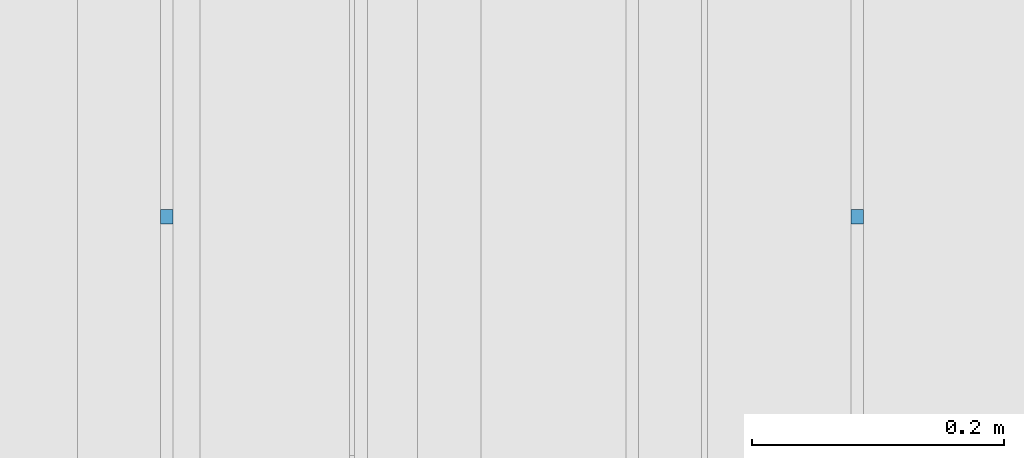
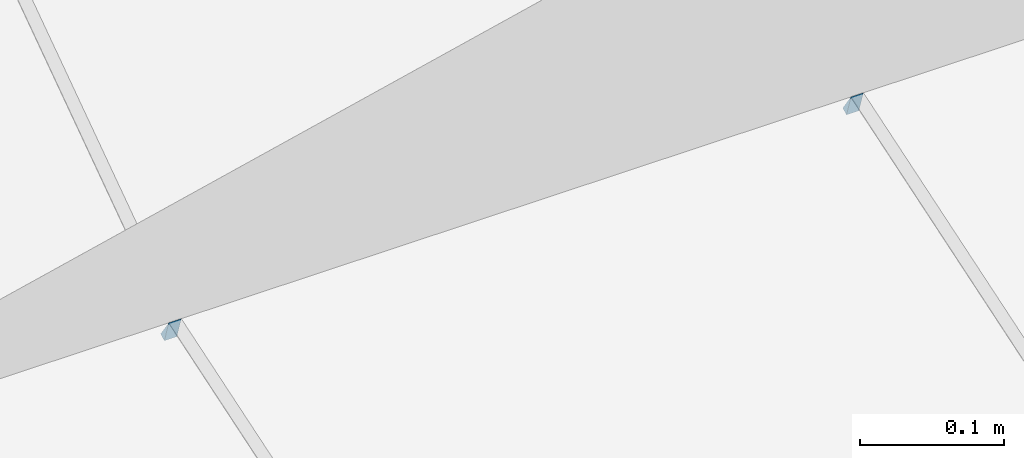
# One storey, part 381 of 583: 2 slabs.
"""IFC2X3 building model written with IfcOpenShell, lengths in metres."""

from ifc_helpers import new_model, entity, si_unit, converted_unit, derived_unit, money_unit, direction, frame, origin_with_axes, place, context, subcontext, project, spatial, faceted_brep, material, type_object, element, save


model = new_model("IFC2X3")

# Units and contexts
model_context = context("Model", 3, precision=1e-05, world=origin_with_axes(), true_north=direction((0.0, 1.0)))
body_context = subcontext(model_context, "Body", "Model", "MODEL_VIEW", scale=1.0)
ifc_project = project(units=[si_unit("LENGTHUNIT", "METRE"), si_unit("AREAUNIT", "SQUARE_METRE"), si_unit("VOLUMEUNIT", "CUBIC_METRE"), si_unit("ABSORBEDDOSEUNIT", "GRAY"), si_unit("AMOUNTOFSUBSTANCEUNIT", "MOLE"), si_unit("DOSEEQUIVALENTUNIT", "SIEVERT"), si_unit("ELECTRICCAPACITANCEUNIT", "FARAD"), si_unit("ELECTRICCHARGEUNIT", "COULOMB"), si_unit("ELECTRICCONDUCTANCEUNIT", "SIEMENS"), si_unit("ELECTRICCURRENTUNIT", "AMPERE"), si_unit("ELECTRICRESISTANCEUNIT", "OHM"), si_unit("ELECTRICVOLTAGEUNIT", "VOLT"), si_unit("ENERGYUNIT", "JOULE"), si_unit("FORCEUNIT", "NEWTON"), si_unit("FREQUENCYUNIT", "HERTZ"), si_unit("ILLUMINANCEUNIT", "LUX"), si_unit("INDUCTANCEUNIT", "HENRY"), si_unit("LUMINOUSFLUXUNIT", "LUMEN"), si_unit("LUMINOUSINTENSITYUNIT", "CANDELA"), si_unit("MAGNETICFLUXDENSITYUNIT", "TESLA"), si_unit("MAGNETICFLUXUNIT", "WEBER"), si_unit("MASSUNIT", "GRAM"), converted_unit("PLANEANGLEUNIT", "degree", entity("IfcReal", 0.0174532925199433), si_unit("PLANEANGLEUNIT", "RADIAN"), dimensions=[0, 0, 0, 0, 0, 0, 0]), si_unit("POWERUNIT", "WATT"), si_unit("PRESSUREUNIT", "PASCAL"), si_unit("RADIOACTIVITYUNIT", "BECQUEREL"), si_unit("SOLIDANGLEUNIT", "STERADIAN"), si_unit("THERMODYNAMICTEMPERATUREUNIT", "KELVIN"), si_unit("TIMEUNIT", "SECOND"), derived_unit("ACCELERATIONUNIT", [(si_unit("LENGTHUNIT", "METRE"), 1), (si_unit("TIMEUNIT", "SECOND"), -2)]), derived_unit("ANGULARVELOCITYUNIT", [(converted_unit("PLANEANGLEUNIT", "degree", entity("IfcReal", 0.0174532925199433), si_unit("PLANEANGLEUNIT", "RADIAN"), dimensions=[0, 0, 0, 0, 0, 0, 0]), 1), (si_unit("TIMEUNIT", "SECOND"), -1)]), derived_unit("CURVATUREUNIT", [(converted_unit("PLANEANGLEUNIT", "degree", entity("IfcReal", 0.0174532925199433), si_unit("PLANEANGLEUNIT", "RADIAN"), dimensions=[0, 0, 0, 0, 0, 0, 0]), 1), (si_unit("LENGTHUNIT", "METRE"), -1)]), derived_unit("DYNAMICVISCOSITYUNIT", [(si_unit("PRESSUREUNIT", "PASCAL"), 1), (si_unit("TIMEUNIT", "SECOND"), 1)]), derived_unit("HEATFLUXDENSITYUNIT", [(si_unit("POWERUNIT", "WATT"), 1), (si_unit("LENGTHUNIT", "METRE"), -2)]), derived_unit("HEATINGVALUEUNIT", [(si_unit("ENERGYUNIT", "JOULE"), 1), (si_unit("MASSUNIT", "GRAM"), -1)]), derived_unit("INTEGERCOUNTRATEUNIT", [(si_unit("TIMEUNIT", "SECOND"), -1)]), derived_unit("IONCONCENTRATIONUNIT", [(si_unit("MASSUNIT", "GRAM"), 1), (si_unit("VOLUMEUNIT", "CUBIC_METRE"), -1)]), derived_unit("ISOTHERMALMOISTURECAPACITYUNIT", [(si_unit("VOLUMEUNIT", "CUBIC_METRE"), 1), (si_unit("MASSUNIT", "GRAM"), -1)]), derived_unit("KINEMATICVISCOSITYUNIT", [(si_unit("AREAUNIT", "SQUARE_METRE"), 1), (si_unit("TIMEUNIT", "SECOND"), -1)]), derived_unit("LINEARFORCEUNIT", [(si_unit("FORCEUNIT", "NEWTON"), 1), (si_unit("LENGTHUNIT", "METRE"), -1)]), derived_unit("LINEARMOMENTUNIT", [(si_unit("FORCEUNIT", "NEWTON"), 1), (si_unit("LENGTHUNIT", "METRE"), -1)]), derived_unit("LINEARSTIFFNESSUNIT", [(si_unit("FORCEUNIT", "NEWTON"), 1), (si_unit("LENGTHUNIT", "METRE"), -1)]), derived_unit("LINEARVELOCITYUNIT", [(si_unit("LENGTHUNIT", "METRE"), 1), (si_unit("TIMEUNIT", "SECOND"), -1)]), derived_unit("LUMINOUSINTENSITYDISTRIBUTIONUNIT", [(si_unit("LUMINOUSINTENSITYUNIT", "CANDELA"), 1), (si_unit("LUMINOUSFLUXUNIT", "LUMEN"), -1)]), derived_unit("MASSDENSITYUNIT", [(si_unit("MASSUNIT", "GRAM"), 1), (si_unit("VOLUMEUNIT", "CUBIC_METRE"), -1)]), derived_unit("MASSFLOWRATEUNIT", [(si_unit("MASSUNIT", "GRAM"), 1), (si_unit("TIMEUNIT", "SECOND"), -1)]), derived_unit("MASSPERLENGTHUNIT", [(si_unit("MASSUNIT", "GRAM"), 1), (si_unit("LENGTHUNIT", "METRE"), -1)]), derived_unit("MODULUSOFELASTICITYUNIT", [(si_unit("FORCEUNIT", "NEWTON"), 1), (si_unit("AREAUNIT", "SQUARE_METRE"), -1)]), derived_unit("MODULUSOFLINEARSUBGRADEREACTIONUNIT", [(si_unit("FORCEUNIT", "NEWTON"), 1), (si_unit("LENGTHUNIT", "METRE"), -2)]), derived_unit("MODULUSOFROTATIONALSUBGRADEREACTIONUNIT", [(si_unit("FORCEUNIT", "NEWTON"), 1), (si_unit("LENGTHUNIT", "METRE"), 1)]), derived_unit("MODULUSOFSUBGRADEREACTIONUNIT", [(si_unit("FORCEUNIT", "NEWTON"), 1), (si_unit("VOLUMEUNIT", "CUBIC_METRE"), -1)]), derived_unit("MOISTUREDIFFUSIVITYUNIT", [(si_unit("VOLUMEUNIT", "CUBIC_METRE"), 1), (si_unit("TIMEUNIT", "SECOND"), -1)]), derived_unit("MOLECULARWEIGHTUNIT", [(si_unit("MASSUNIT", "GRAM"), 1), (si_unit("AMOUNTOFSUBSTANCEUNIT", "MOLE"), -1)]), derived_unit("PLANARFORCEUNIT", [(si_unit("FORCEUNIT", "NEWTON"), 1), (si_unit("LENGTHUNIT", "METRE"), -2)]), derived_unit("ROTATIONALFREQUENCYUNIT", [(si_unit("TIMEUNIT", "SECOND"), -1)]), derived_unit("ROTATIONALMASSUNIT", [(si_unit("MASSUNIT", "GRAM"), 1), (si_unit("LENGTHUNIT", "METRE"), 2)]), derived_unit("ROTATIONALSTIFFNESSUNIT", [(si_unit("FORCEUNIT", "NEWTON"), 1), (si_unit("LENGTHUNIT", "METRE"), 1), (converted_unit("PLANEANGLEUNIT", "degree", entity("IfcReal", 0.0174532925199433), si_unit("PLANEANGLEUNIT", "RADIAN"), dimensions=[0, 0, 0, 0, 0, 0, 0]), -1)]), derived_unit("SECTIONAREAINTEGRALUNIT", [(si_unit("LENGTHUNIT", "METRE"), 5)]), derived_unit("SECTIONMODULUSUNIT", [(si_unit("LENGTHUNIT", "METRE"), 3)]), derived_unit("SHEARMODULUSUNIT", [(si_unit("FORCEUNIT", "NEWTON"), 1), (si_unit("AREAUNIT", "SQUARE_METRE"), -1)]), derived_unit("SOUNDPOWERUNIT", [(si_unit("ENERGYUNIT", "JOULE"), 1), (si_unit("TIMEUNIT", "SECOND"), -1)]), derived_unit("SPECIFICHEATCAPACITYUNIT", [(si_unit("FORCEUNIT", "NEWTON"), 1), (si_unit("MASSUNIT", "GRAM"), -1), (si_unit("THERMODYNAMICTEMPERATUREUNIT", "KELVIN"), -1)]), derived_unit("TEMPERATUREGRADIENTUNIT", [(si_unit("THERMODYNAMICTEMPERATUREUNIT", "KELVIN"), 1), (si_unit("LENGTHUNIT", "METRE"), -1)]), derived_unit("THERMALADMITTANCEUNIT", [(si_unit("POWERUNIT", "WATT"), 1), (si_unit("AREAUNIT", "SQUARE_METRE"), -1), (si_unit("THERMODYNAMICTEMPERATUREUNIT", "KELVIN"), -1)]), derived_unit("THERMALCONDUCTANCEUNIT", [(si_unit("POWERUNIT", "WATT"), 1), (si_unit("LENGTHUNIT", "METRE"), -1), (si_unit("THERMODYNAMICTEMPERATUREUNIT", "KELVIN"), -1)]), derived_unit("THERMALEXPANSIONCOEFFICIENTUNIT", [(si_unit("THERMODYNAMICTEMPERATUREUNIT", "KELVIN"), -1)]), derived_unit("THERMALRESISTANCEUNIT", [(si_unit("AREAUNIT", "SQUARE_METRE"), 1), (si_unit("POWERUNIT", "WATT"), -1)]), derived_unit("THERMALTRANSMITTANCEUNIT", [(si_unit("POWERUNIT", "WATT"), 1), (si_unit("AREAUNIT", "SQUARE_METRE"), -1), (si_unit("THERMODYNAMICTEMPERATUREUNIT", "KELVIN"), -1)]), derived_unit("TORQUEUNIT", [(si_unit("FORCEUNIT", "NEWTON"), 1), (si_unit("LENGTHUNIT", "METRE"), 1)]), derived_unit("VAPORPERMEABILITYUNIT", [(si_unit("MASSUNIT", "GRAM"), 1), (si_unit("TIMEUNIT", "SECOND"), -1)]), derived_unit("VOLUMETRICFLOWRATEUNIT", [(si_unit("VOLUMEUNIT", "CUBIC_METRE"), 1), (si_unit("TIMEUNIT", "SECOND"), -1)]), derived_unit("WARPINGCONSTANTUNIT", [(si_unit("LENGTHUNIT", "METRE"), 6)]), derived_unit("WARPINGMOMENTUNIT", [(si_unit("FORCEUNIT", "NEWTON"), 1), (si_unit("LENGTHUNIT", "METRE"), 2)]), money_unit("GBP")], contexts=[model_context])

# Site, building, storey
site_placement = place(None, origin_with_axes())
site = spatial("IfcSite", under=ifc_project, at=site_placement, Name="Site", CompositionType="ELEMENT")
building_placement = place(site_placement, origin_with_axes())
building = spatial("IfcBuilding", under=site, at=building_placement, Name="Building01", CompositionType="ELEMENT")
storey_placement = place(building_placement, frame((0.0, 0.0, 20.78), z_axis=(0.0, 0.0, 1.0), x_axis=(1.0, 0.0, 0.0)))
storey = spatial("IfcBuildingStorey", under=building, at=storey_placement, Name="RL", CompositionType="ELEMENT", Elevation=20.78)

# Slabs
ifc_material = material(Name="A_BSUK_Roofs")
slab_type = type_object("IfcSlabType", Name="A-FloorsSlabs A_BSUK_Slabs", PredefinedType="FLOOR")
slab_1_placement = place(storey_placement, frame((11.275953, 18.791933, -19.462123), z_axis=(0.0, 1.0, 0.0), x_axis=(-1.0, 0.0, 0.0)))
element("IfcSlab", 1, at=slab_1_placement, inside=storey, type_object=slab_type, material=ifc_material, Name="A-FloorsSlabs A_BSUK_Slabs", ObjectType="A-FloorsSlabs A_BSUK_Slabs", context=body_context, shape_type="Brep", body=[
    faceted_brep([(0.0, -0.002638, -0.005291), (0.01, -0.002638, -0.005291), (0.01, 0.0, 0.0), (0.0, 0.0, 0.0), (0.0, 0.016383, -0.011472), (0.01, 0.016383, -0.011472)], [[[0, 1, 2, 3]], [[4, 5, 1, 0]], [[3, 2, 5, 4]], [[1, 5, 2]], [[3, 4, 0]]]),
])
slab_2_placement = place(storey_placement, frame((11.813453, 18.791933, -19.462123), z_axis=(0.0, 1.0, 0.0), x_axis=(-1.0, 0.0, 0.0)))
element("IfcSlab", 2, at=slab_2_placement, inside=storey, type_object=slab_type, material=ifc_material, Name="A-FloorsSlabs A_BSUK_Slabs", ObjectType="A-FloorsSlabs A_BSUK_Slabs", context=body_context, shape_type="Brep", body=[
    faceted_brep([(0.0, 0.0, 0.0), (-0.01, 0.0, 0.0), (-0.01, -0.002638, -0.005291), (0.0, -0.002638, -0.005291), (-0.01, 0.016383, -0.011472), (0.0, 0.016383, -0.011472)], [[[0, 1, 2, 3]], [[3, 2, 4, 5]], [[5, 4, 1, 0]], [[1, 4, 2]], [[3, 5, 0]]]),
])

save(model, "model.ifc")
